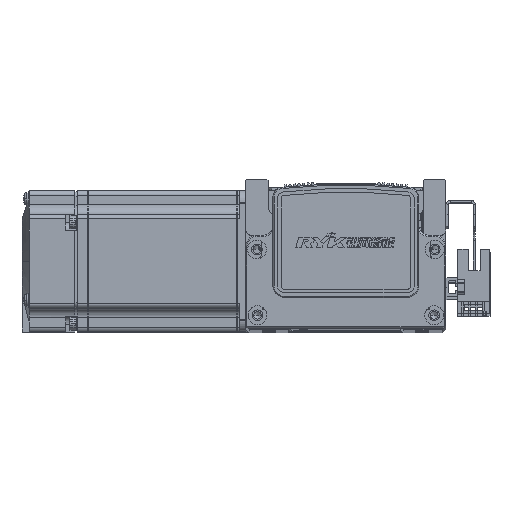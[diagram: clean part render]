
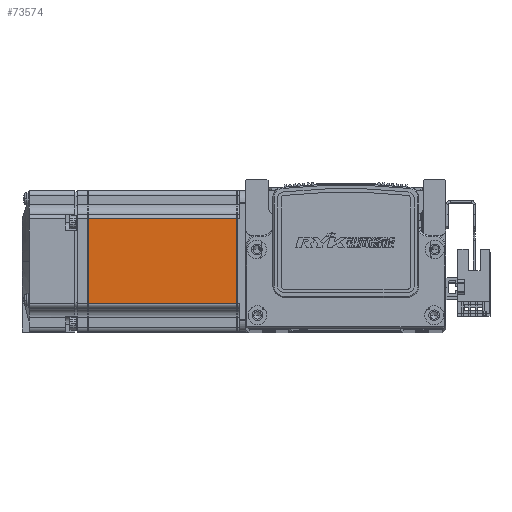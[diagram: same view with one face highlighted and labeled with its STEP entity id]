
A CAD part, top view. The second image highlights one B-rep face of the part: STEP entity #73574.
In plain terms, the highlighted planar face has unit normal (0, 0, 1) as drawn and (0, 0, -1) by its records, which use the part's own axes.
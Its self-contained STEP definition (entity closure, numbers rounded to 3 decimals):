
#10239 = VERTEX_POINT ( 'NONE', #70436 ) ;
#10317 = VERTEX_POINT ( 'NONE', #70404 ) ;
#10357 = VERTEX_POINT ( 'NONE', #70468 ) ;
#10399 = VERTEX_POINT ( 'NONE', #70490 ) ;
#31029 = PLANE ( 'NONE',  #77048 ) ;
#31039 = DIRECTION ( 'NONE',  ( 0., 0., -1. ) ) ;
#31054 = DIRECTION ( 'NONE',  ( -1., 0., 0. ) ) ;
#31069 = CARTESIAN_POINT ( 'NONE',  ( -6.5, 25., -30. ) ) ;
#31847 = FACE_OUTER_BOUND ( 'NONE', #44510, .T. ) ;
#34458 = ORIENTED_EDGE ( 'NONE', *, *, #50917, .T. ) ;
#34500 = ORIENTED_EDGE ( 'NONE', *, *, #50983, .T. ) ;
#34523 = ORIENTED_EDGE ( 'NONE', *, *, #50958, .T. ) ;
#34619 = ORIENTED_EDGE ( 'NONE', *, *, #50979, .T. ) ;
#44510 = EDGE_LOOP ( 'NONE', ( #34619, #34500, #34458, #34523 ) ) ;
#50917 = EDGE_CURVE ( 'NONE', #10239, #10399, #68492, .T. ) ;
#50958 = EDGE_CURVE ( 'NONE', #10399, #10317, #68456, .T. ) ;
#50979 = EDGE_CURVE ( 'NONE', #10317, #10357, #68504, .T. ) ;
#50983 = EDGE_CURVE ( 'NONE', #10357, #10239, #68500, .T. ) ;
#68453 = VECTOR ( 'NONE', #72087, 1000. ) ;
#68456 = LINE ( 'NONE', #72072, #68453 ) ;
#68484 = VECTOR ( 'NONE', #71958, 1000. ) ;
#68492 = LINE ( 'NONE', #71980, #68484 ) ;
#68500 = LINE ( 'NONE', #72237, #68517 ) ;
#68501 = VECTOR ( 'NONE', #72174, 1000. ) ;
#68504 = LINE ( 'NONE', #72173, #68501 ) ;
#68517 = VECTOR ( 'NONE', #72240, 1000. ) ;
#70404 = CARTESIAN_POINT ( 'NONE',  ( -7.75, 18., -30. ) ) ;
#70436 = CARTESIAN_POINT ( 'NONE',  ( -70.95, -18., -30. ) ) ;
#70468 = CARTESIAN_POINT ( 'NONE',  ( -7.75, -18., -30. ) ) ;
#70490 = CARTESIAN_POINT ( 'NONE',  ( -70.95, 18., -30. ) ) ;
#71958 = DIRECTION ( 'NONE',  ( 0., 1., 0. ) ) ;
#71980 = CARTESIAN_POINT ( 'NONE',  ( -70.95, 25., -30. ) ) ;
#72072 = CARTESIAN_POINT ( 'NONE',  ( -6.5, 18., -30. ) ) ;
#72087 = DIRECTION ( 'NONE',  ( 1., 0., 0. ) ) ;
#72173 = CARTESIAN_POINT ( 'NONE',  ( -7.75, 25., -30. ) ) ;
#72174 = DIRECTION ( 'NONE',  ( 0., -1., 0. ) ) ;
#72237 = CARTESIAN_POINT ( 'NONE',  ( -6.5, -18., -30. ) ) ;
#72240 = DIRECTION ( 'NONE',  ( -1., 0., 0. ) ) ;
#73574 = ADVANCED_FACE ( 'NONE', ( #31847 ), #31029, .T. ) ;
#77048 = AXIS2_PLACEMENT_3D ( 'NONE', #31069, #31039, #31054 ) ;
